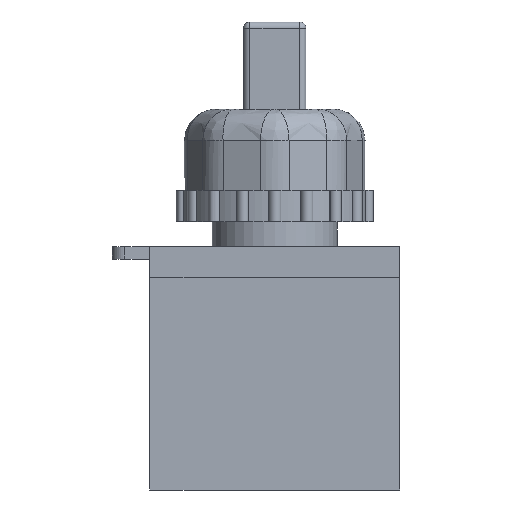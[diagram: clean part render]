
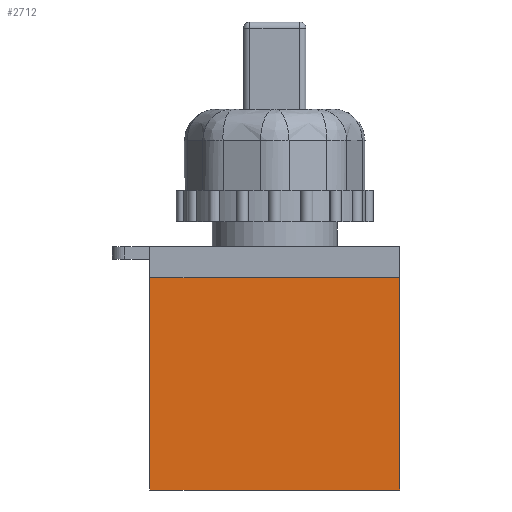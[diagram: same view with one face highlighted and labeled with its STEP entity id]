
A CAD part, front view. The second image highlights one B-rep face of the part: STEP entity #2712.
In plain terms, the highlighted planar face has unit normal (0, -1, 0).
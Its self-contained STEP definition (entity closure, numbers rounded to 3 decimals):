
#271=FACE_OUTER_BOUND('',#438,.T.);
#438=EDGE_LOOP('',(#1814,#1815,#1816,#1817));
#611=LINE('',#4021,#869);
#613=LINE('',#4025,#871);
#616=LINE('',#4030,#874);
#617=LINE('',#4032,#875);
#869=VECTOR('',#3184,10.);
#871=VECTOR('',#3188,10.);
#874=VECTOR('',#3193,10.);
#875=VECTOR('',#3196,10.);
#1126=VERTEX_POINT('',#4018);
#1127=VERTEX_POINT('',#4020);
#1128=VERTEX_POINT('',#4024);
#1129=VERTEX_POINT('',#4028);
#1393=EDGE_CURVE('',#1127,#1126,#611,.T.);
#1395=EDGE_CURVE('',#1127,#1128,#613,.T.);
#1398=EDGE_CURVE('',#1126,#1129,#616,.T.);
#1399=EDGE_CURVE('',#1128,#1129,#617,.T.);
#1814=ORIENTED_EDGE('',*,*,#1393,.T.);
#1815=ORIENTED_EDGE('',*,*,#1398,.T.);
#1816=ORIENTED_EDGE('',*,*,#1399,.F.);
#1817=ORIENTED_EDGE('',*,*,#1395,.F.);
#2622=PLANE('',#2890);
#2712=ADVANCED_FACE('',(#271),#2622,.T.);
#2890=AXIS2_PLACEMENT_3D('',#4031,#3194,#3195);
#3184=DIRECTION('',(1.,0.,0.));
#3188=DIRECTION('',(0.,0.,1.));
#3193=DIRECTION('',(0.,0.,1.));
#3194=DIRECTION('center_axis',(0.,-1.,0.));
#3195=DIRECTION('ref_axis',(1.,0.,0.));
#3196=DIRECTION('',(1.,0.,0.));
#4018=CARTESIAN_POINT('',(20.,-15.5,0.));
#4020=CARTESIAN_POINT('',(-20.,-15.5,0.));
#4021=CARTESIAN_POINT('',(-20.,-15.5,0.));
#4024=CARTESIAN_POINT('',(-20.,-15.5,34.));
#4025=CARTESIAN_POINT('',(-20.,-15.5,0.));
#4028=CARTESIAN_POINT('',(20.,-15.5,34.));
#4030=CARTESIAN_POINT('',(20.,-15.5,0.));
#4031=CARTESIAN_POINT('Origin',(-20.,-15.5,0.));
#4032=CARTESIAN_POINT('',(-20.,-15.5,34.));
